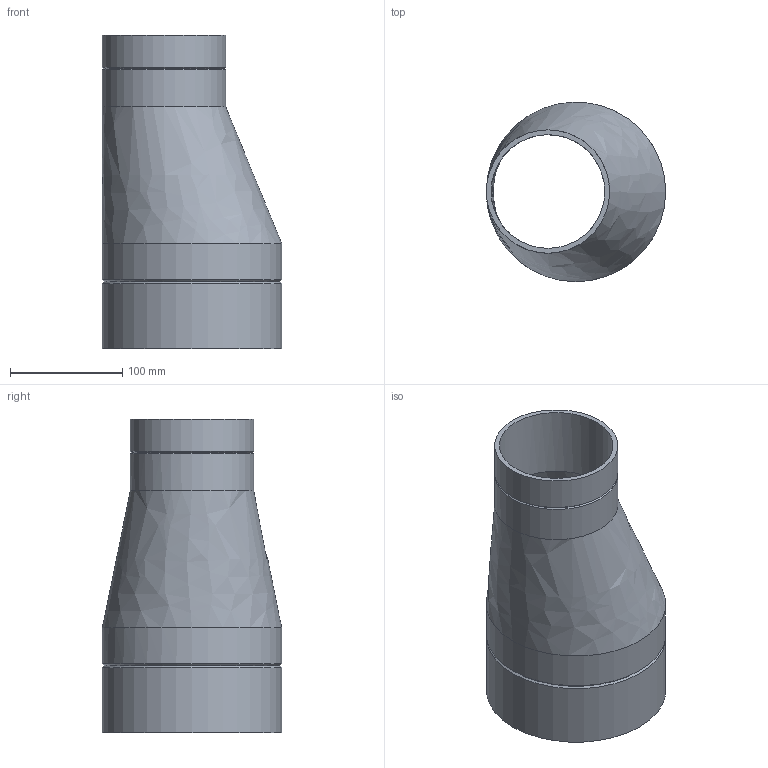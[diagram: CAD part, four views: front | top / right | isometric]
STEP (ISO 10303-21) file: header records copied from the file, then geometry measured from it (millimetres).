
FILE_DESCRIPTION(/* description */ (''),/* implementation_level */ '2;1');
FILE_NAME(/* name */ 'Z:\Geberit\Export\NewStep\369584.stp',/* time_stamp */ '2014-04-02T08:02:52+02:00',/* author */ ('nelson'),/* organization */ (''),/* preprocessor_version */ 'ST-DEVELOPER v15.2',/* originating_system */ 'Autodesk Inventor 2014',/* authorisation */ '');
FILE_SCHEMA (('AUTOMOTIVE_DESIGN { 1 0 10303 214 3 1 1 }'));
Length unit declared in the file: millimetre
Products named in the file (1): 369584
Bounding box: 160 x 160 x 280 mm (x, y, z)
Volume: 635318.8 mm3; surface area: 241077.8 mm2
Topology: 1 solids, 1 shells, 14 faces, 38 edges, 26 vertices
Faces by surface type: cylinder 6, cone 4, bspline 2, plane 2
Full cylindrical faces by diameter (mm): 101.4 x1, 110 x2, 147.6 x1, 160 x2
Entity records: 417 total; most frequent: CARTESIAN_POINT 93, DIRECTION 66, ORIENTED_EDGE 44, AXIS2_PLACEMENT_3D 33, EDGE_LOOP 26, EDGE_CURVE 22, CIRCLE 20, VERTEX_POINT 20
